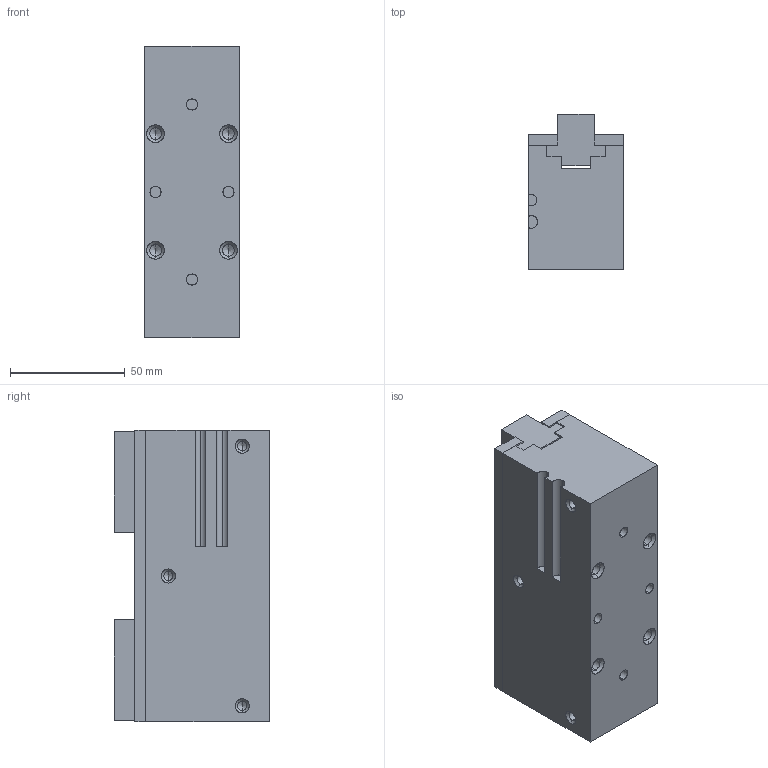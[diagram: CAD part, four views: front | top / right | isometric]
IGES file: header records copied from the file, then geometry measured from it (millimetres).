
Start section: SolidWorks IGES file using analytic representation for surfaces
Global section: file name: C:\Users\User\Downloads\AGLP-8\AGLP-8\iges\AGLP-8-1500-open.IGS; native system: SolidWorks 2016; preprocessor: SolidWorks 2016; author: User; date: 200430.164545; units: inch
Bounding box: 41.27 x 67.57 x 127 mm (x, y, z)
Surface area: 55404.3 mm2 (no closed solid volume)
Topology: 0 solids, 0 shells, 260 faces, 4069 edges, 4047 vertices
Faces by surface type: revolution 166, bspline 94
